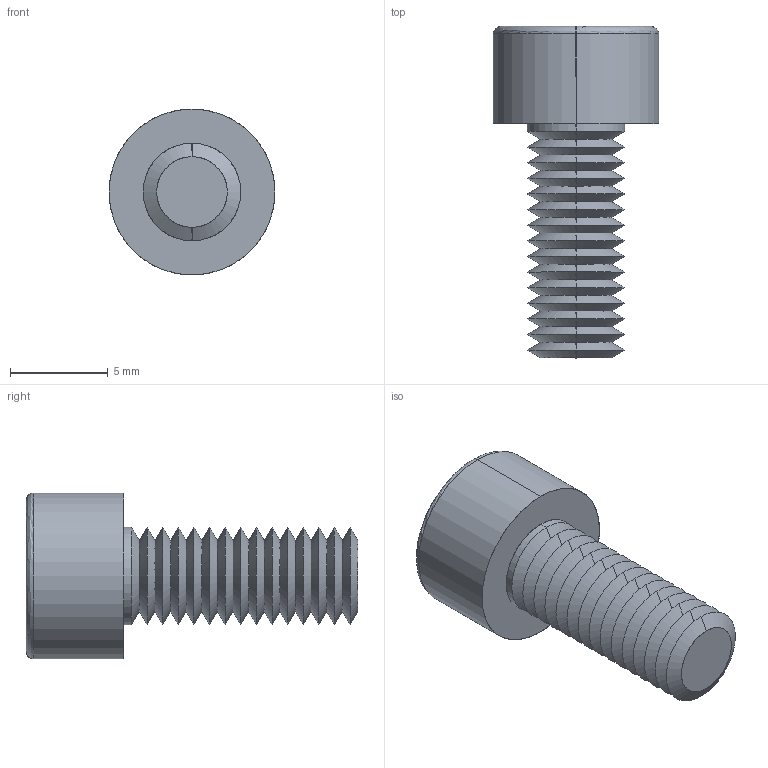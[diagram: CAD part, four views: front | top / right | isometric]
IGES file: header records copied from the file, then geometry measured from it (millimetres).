
Start section: SolidWorks IGES file using analytic representation for surfaces
Global section: file name: C:\Users\ianosborn\Desktop\N0007.91N_v2\N0007.91N_v2_20250519_IGES\91N.050.0120.igs; native system: SolidWorks 2019; preprocessor: SolidWorks 2019; author: IanOsborn; date: 250520.095141; units: millimetre
Bounding box: 8.5 x 17 x 8.5 mm (x, y, z)
Surface area: 609.9 mm2 (no closed solid volume)
Topology: 0 solids, 0 shells, 88 faces, 549 edges, 547 vertices
Faces by surface type: revolution 71, bspline 17
